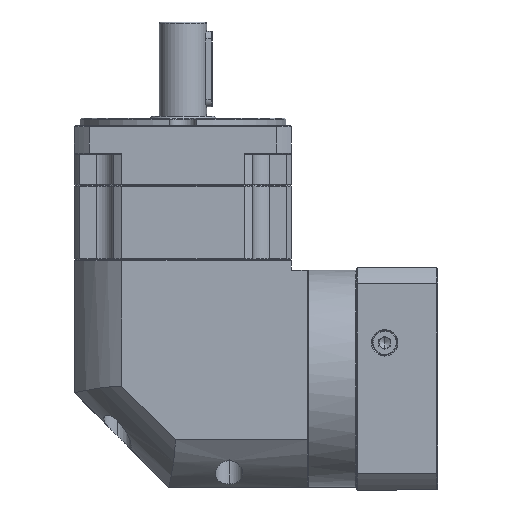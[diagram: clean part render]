
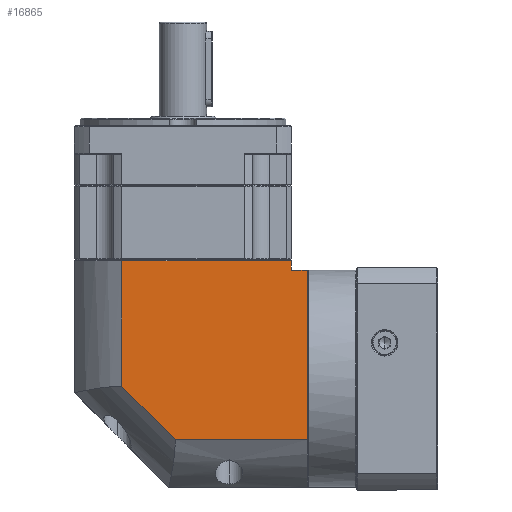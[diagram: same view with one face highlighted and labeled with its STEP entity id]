
A CAD part, left-side view. The second image highlights one B-rep face of the part: STEP entity #16865.
In plain terms, the highlighted planar face has unit normal (-1, 0, 0).
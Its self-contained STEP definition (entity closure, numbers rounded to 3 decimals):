
#13190 = CARTESIAN_POINT ( 'NONE',  ( -244.861, -92.457, -18.442 ) ) ;
#16357 = DIRECTION ( 'NONE',  ( 0., -1., 0. ) ) ;
#16481 = VECTOR ( 'NONE', #66539, 1000. ) ;
#16865 = ADVANCED_FACE ( 'NONE', ( #166226 ), #61713, .F. ) ;
#17961 = CARTESIAN_POINT ( 'NONE',  ( -244.861, -2.557, 34.996 ) ) ;
#23561 = ORIENTED_EDGE ( 'NONE', *, *, #39332, .F. ) ;
#27159 = EDGE_CURVE ( 'NONE', #140771, #44830, #159158, .T. ) ;
#38185 = EDGE_CURVE ( 'NONE', #110705, #42131, #132516, .T. ) ;
#39332 = EDGE_CURVE ( 'NONE', #160327, #110705, #56492, .T. ) ;
#40619 = CARTESIAN_POINT ( 'NONE',  ( -244.861, -100.857, 96.558 ) ) ;
#41115 = CARTESIAN_POINT ( 'NONE',  ( -244.861, -2.557, 108.058 ) ) ;
#42131 = VERTEX_POINT ( 'NONE', #140214 ) ;
#44369 = ORIENTED_EDGE ( 'NONE', *, *, #123366, .F. ) ;
#44830 = VERTEX_POINT ( 'NONE', #99765 ) ;
#56492 = LINE ( 'NONE', #138294, #159322 ) ;
#61576 = EDGE_CURVE ( 'NONE', #160327, #140771, #105446, .T. ) ;
#61713 = PLANE ( 'NONE',  #88419 ) ;
#63425 = DIRECTION ( 'NONE',  ( 1., 0., 0. ) ) ;
#65386 = VECTOR ( 'NONE', #120911, 1000. ) ;
#66539 = DIRECTION ( 'NONE',  ( 0., 0., 1. ) ) ;
#66545 = LINE ( 'NONE', #110833, #133707 ) ;
#67876 = EDGE_CURVE ( 'NONE', #71195, #44830, #66545, .T. ) ;
#71195 = VERTEX_POINT ( 'NONE', #127580 ) ;
#72697 = CARTESIAN_POINT ( 'NONE',  ( -244.861, -30.896, 6.658 ) ) ;
#74724 = CARTESIAN_POINT ( 'NONE',  ( -244.861, -92.457, 96.558 ) ) ;
#75878 = LINE ( 'NONE', #41115, #147191 ) ;
#86234 = DIRECTION ( 'NONE',  ( 0., 0.707, 0.707 ) ) ;
#88419 = AXIS2_PLACEMENT_3D ( 'NONE', #143844, #63425, #157316 ) ;
#94169 = CARTESIAN_POINT ( 'NONE',  ( -244.861, 22.543, 6.658 ) ) ;
#96990 = VECTOR ( 'NONE', #162118, 1000. ) ;
#99765 = CARTESIAN_POINT ( 'NONE',  ( -244.861, -92.457, 101.558 ) ) ;
#105446 = LINE ( 'NONE', #147332, #65386 ) ;
#110705 = VERTEX_POINT ( 'NONE', #158467 ) ;
#110833 = CARTESIAN_POINT ( 'NONE',  ( -244.861, 22.543, 101.558 ) ) ;
#111538 = VECTOR ( 'NONE', #86234, 1000. ) ;
#120911 = DIRECTION ( 'NONE',  ( 0., 1., 0. ) ) ;
#123366 = EDGE_CURVE ( 'NONE', #42131, #162484, #147091, .T. ) ;
#127366 = ORIENTED_EDGE ( 'NONE', *, *, #27159, .T. ) ;
#127580 = CARTESIAN_POINT ( 'NONE',  ( -244.861, -2.557, 101.558 ) ) ;
#128029 = ORIENTED_EDGE ( 'NONE', *, *, #67876, .F. ) ;
#132516 = LINE ( 'NONE', #94169, #96990 ) ;
#133707 = VECTOR ( 'NONE', #16357, 1000. ) ;
#134951 = DIRECTION ( 'NONE',  ( 0., 0., 1. ) ) ;
#138294 = CARTESIAN_POINT ( 'NONE',  ( -244.861, -100.857, 108.058 ) ) ;
#140214 = CARTESIAN_POINT ( 'NONE',  ( -244.861, -30.896, 6.658 ) ) ;
#140771 = VERTEX_POINT ( 'NONE', #74724 ) ;
#143844 = CARTESIAN_POINT ( 'NONE',  ( -244.861, 22.543, 108.058 ) ) ;
#144800 = EDGE_LOOP ( 'NONE', ( #153881, #44369, #171477, #23561, #151219, #127366, #128029 ) ) ;
#146059 = EDGE_CURVE ( 'NONE', #162484, #71195, #75878, .T. ) ;
#147091 = LINE ( 'NONE', #72697, #111538 ) ;
#147191 = VECTOR ( 'NONE', #134951, 1000. ) ;
#147332 = CARTESIAN_POINT ( 'NONE',  ( -244.861, -92.457, 96.558 ) ) ;
#151219 = ORIENTED_EDGE ( 'NONE', *, *, #61576, .T. ) ;
#153881 = ORIENTED_EDGE ( 'NONE', *, *, #146059, .F. ) ;
#157316 = DIRECTION ( 'NONE',  ( 0., 1., 0. ) ) ;
#158467 = CARTESIAN_POINT ( 'NONE',  ( -244.861, -100.857, 6.658 ) ) ;
#159158 = LINE ( 'NONE', #13190, #16481 ) ;
#159322 = VECTOR ( 'NONE', #165242, 1000. ) ;
#160327 = VERTEX_POINT ( 'NONE', #40619 ) ;
#162118 = DIRECTION ( 'NONE',  ( 0., 1., 0. ) ) ;
#162484 = VERTEX_POINT ( 'NONE', #17961 ) ;
#165242 = DIRECTION ( 'NONE',  ( 0., 0., -1. ) ) ;
#166226 = FACE_OUTER_BOUND ( 'NONE', #144800, .T. ) ;
#171477 = ORIENTED_EDGE ( 'NONE', *, *, #38185, .F. ) ;
